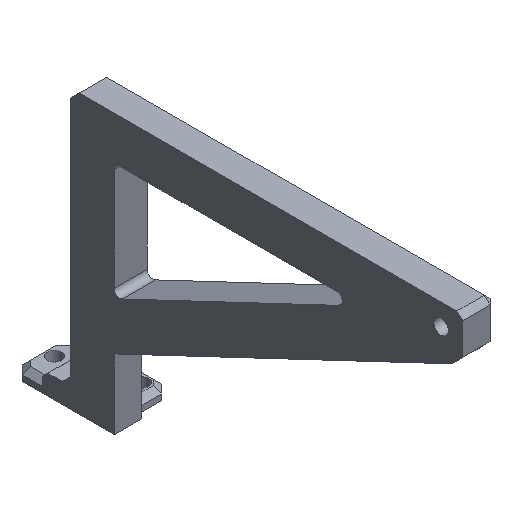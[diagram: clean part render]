
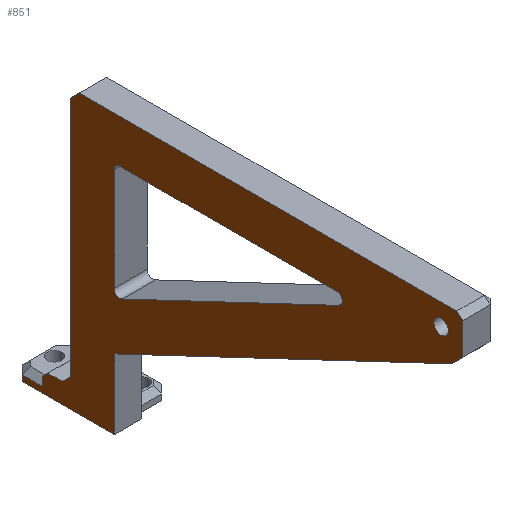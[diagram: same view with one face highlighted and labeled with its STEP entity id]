
A CAD part, isometric view. The second image highlights one B-rep face of the part: STEP entity #851.
In plain terms, the highlighted planar face has unit normal (-1, 0, 0).
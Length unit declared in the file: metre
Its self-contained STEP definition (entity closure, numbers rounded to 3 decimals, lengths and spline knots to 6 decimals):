
#22=CIRCLE('',#917,0.0025);
#24=CIRCLE('',#920,0.002);
#25=CIRCLE('',#921,0.002);
#26=CIRCLE('',#922,0.002);
#88=ORIENTED_EDGE('',*,*,#295,.F.);
#89=ORIENTED_EDGE('',*,*,#322,.T.);
#90=ORIENTED_EDGE('',*,*,#323,.T.);
#91=ORIENTED_EDGE('',*,*,#287,.F.);
#92=ORIENTED_EDGE('',*,*,#283,.F.);
#93=ORIENTED_EDGE('',*,*,#280,.T.);
#94=ORIENTED_EDGE('',*,*,#324,.T.);
#95=ORIENTED_EDGE('',*,*,#316,.F.);
#96=ORIENTED_EDGE('',*,*,#325,.T.);
#97=ORIENTED_EDGE('',*,*,#311,.F.);
#98=ORIENTED_EDGE('',*,*,#326,.T.);
#99=ORIENTED_EDGE('',*,*,#307,.F.);
#100=ORIENTED_EDGE('',*,*,#327,.T.);
#101=ORIENTED_EDGE('',*,*,#303,.F.);
#102=ORIENTED_EDGE('',*,*,#328,.T.);
#103=ORIENTED_EDGE('',*,*,#269,.F.);
#104=ORIENTED_EDGE('',*,*,#329,.T.);
#105=ORIENTED_EDGE('',*,*,#312,.F.);
#106=ORIENTED_EDGE('',*,*,#330,.T.);
#107=ORIENTED_EDGE('',*,*,#275,.F.);
#108=ORIENTED_EDGE('',*,*,#331,.T.);
#109=ORIENTED_EDGE('',*,*,#320,.T.);
#269=EDGE_CURVE('',#387,#388,#462,.T.);
#275=EDGE_CURVE('',#393,#394,#468,.T.);
#280=EDGE_CURVE('',#395,#398,#473,.T.);
#283=EDGE_CURVE('',#395,#399,#476,.T.);
#287=EDGE_CURVE('',#399,#404,#479,.T.);
#295=EDGE_CURVE('',#411,#412,#485,.T.);
#303=EDGE_CURVE('',#419,#416,#493,.T.);
#307=EDGE_CURVE('',#423,#420,#497,.T.);
#311=EDGE_CURVE('',#427,#424,#501,.T.);
#312=EDGE_CURVE('',#428,#429,#502,.T.);
#316=EDGE_CURVE('',#432,#433,#506,.T.);
#320=EDGE_CURVE('',#436,#436,#22,.T.);
#322=EDGE_CURVE('',#411,#438,#510,.T.);
#323=EDGE_CURVE('',#438,#404,#511,.T.);
#324=EDGE_CURVE('',#398,#433,#512,.T.);
#325=EDGE_CURVE('',#432,#424,#513,.F.);
#326=EDGE_CURVE('',#427,#420,#514,.F.);
#327=EDGE_CURVE('',#423,#416,#515,.F.);
#328=EDGE_CURVE('',#419,#412,#516,.F.);
#329=EDGE_CURVE('',#387,#429,#24,.T.);
#330=EDGE_CURVE('',#428,#394,#25,.T.);
#331=EDGE_CURVE('',#393,#388,#26,.T.);
#387=VERTEX_POINT('',#1203);
#388=VERTEX_POINT('',#1204);
#393=VERTEX_POINT('',#1215);
#394=VERTEX_POINT('',#1217);
#395=VERTEX_POINT('',#1221);
#398=VERTEX_POINT('',#1226);
#399=VERTEX_POINT('',#1230);
#404=VERTEX_POINT('',#1242);
#411=VERTEX_POINT('',#1258);
#412=VERTEX_POINT('',#1259);
#416=VERTEX_POINT('',#1269);
#419=VERTEX_POINT('',#1274);
#420=VERTEX_POINT('',#1278);
#423=VERTEX_POINT('',#1283);
#424=VERTEX_POINT('',#1287);
#427=VERTEX_POINT('',#1292);
#428=VERTEX_POINT('',#1296);
#429=VERTEX_POINT('',#1297);
#432=VERTEX_POINT('',#1305);
#433=VERTEX_POINT('',#1306);
#436=VERTEX_POINT('',#1314);
#438=VERTEX_POINT('',#1319);
#462=LINE('',#1202,#566);
#468=LINE('',#1216,#572);
#473=LINE('',#1227,#577);
#476=LINE('',#1233,#580);
#479=LINE('',#1241,#583);
#485=LINE('',#1257,#589);
#493=LINE('',#1275,#597);
#497=LINE('',#1284,#601);
#501=LINE('',#1293,#605);
#502=LINE('',#1295,#606);
#506=LINE('',#1304,#610);
#510=LINE('',#1318,#614);
#511=LINE('',#1320,#615);
#512=LINE('',#1321,#616);
#513=LINE('',#1322,#617);
#514=LINE('',#1323,#618);
#515=LINE('',#1324,#619);
#516=LINE('',#1325,#620);
#566=VECTOR('',#970,1.);
#572=VECTOR('',#978,1.);
#577=VECTOR('',#985,1.);
#580=VECTOR('',#990,1.);
#583=VECTOR('',#997,1.);
#589=VECTOR('',#1009,1.);
#597=VECTOR('',#1019,1.);
#601=VECTOR('',#1025,1.);
#605=VECTOR('',#1031,1.);
#606=VECTOR('',#1034,1.);
#610=VECTOR('',#1040,1.);
#614=VECTOR('',#1052,1.);
#615=VECTOR('',#1053,1.);
#616=VECTOR('',#1054,1.);
#617=VECTOR('',#1055,1.);
#618=VECTOR('',#1056,1.);
#619=VECTOR('',#1057,1.);
#620=VECTOR('',#1058,1.);
#686=EDGE_LOOP('',(#88,#89,#90,#91,#92,#93,#94,#95,#96,#97,#98,#99,#100,
#101,#102));
#687=EDGE_LOOP('',(#103,#104,#105,#106,#107,#108));
#688=EDGE_LOOP('',(#109));
#749=FACE_BOUND('',#686,.T.);
#750=FACE_BOUND('',#687,.T.);
#751=FACE_BOUND('',#688,.T.);
#807=PLANE('',#919);
#851=ADVANCED_FACE('',(#749,#750,#751),#807,.F.);
#917=AXIS2_PLACEMENT_3D('',#1313,#1046,#1047);
#919=AXIS2_PLACEMENT_3D('',#1317,#1050,#1051);
#920=AXIS2_PLACEMENT_3D('',#1326,#1059,#1060);
#921=AXIS2_PLACEMENT_3D('',#1327,#1061,#1062);
#922=AXIS2_PLACEMENT_3D('',#1328,#1063,#1064);
#970=DIRECTION('',(0.,0.,-1.));
#978=DIRECTION('',(0.,-0.903,0.429));
#985=DIRECTION('',(0.,-0.903,0.429));
#990=DIRECTION('',(0.,0.,-1.));
#997=DIRECTION('',(0.,1.,0.));
#1009=DIRECTION('',(0.,0.,1.));
#1019=DIRECTION('',(0.,-1.,0.));
#1025=DIRECTION('',(0.,0.,1.));
#1031=DIRECTION('',(0.,-1.,0.));
#1034=DIRECTION('',(0.,1.,0.));
#1040=DIRECTION('',(0.,0.,-1.));
#1046=DIRECTION('',(1.,0.,0.));
#1047=DIRECTION('',(0.,0.,-1.));
#1050=DIRECTION('',(1.,0.,0.));
#1051=DIRECTION('',(0.,1.,0.));
#1052=DIRECTION('',(0.,1.,0.));
#1053=DIRECTION('',(0.,0.,-1.));
#1054=DIRECTION('',(0.,-0.707,0.707));
#1055=DIRECTION('',(0.,-0.707,-0.707));
#1056=DIRECTION('',(0.,-0.707,0.707));
#1057=DIRECTION('',(0.,-0.707,0.707));
#1058=DIRECTION('',(0.,-0.707,0.707));
#1059=DIRECTION('',(1.,0.,0.));
#1060=DIRECTION('',(0.,0.,-1.));
#1061=DIRECTION('',(1.,0.,0.));
#1062=DIRECTION('',(0.,0.,-1.));
#1063=DIRECTION('',(1.,0.,0.));
#1064=DIRECTION('',(0.,0.,-1.));
#1202=CARTESIAN_POINT('',(0.0185,-0.085,0.066398));
#1203=CARTESIAN_POINT('',(0.0185,-0.085,0.084864));
#1204=CARTESIAN_POINT('',(0.0185,-0.085,0.049095));
#1215=CARTESIAN_POINT('',(0.0185,-0.087858,0.047288));
#1216=CARTESIAN_POINT('',(0.0185,-0.128124,0.066398));
#1217=CARTESIAN_POINT('',(0.0185,-0.163227,0.083058));
#1221=CARTESIAN_POINT('',(0.0185,-0.085,0.029329));
#1226=CARTESIAN_POINT('',(0.0185,-0.202427,0.085058));
#1227=CARTESIAN_POINT('',(0.0185,-0.145617,0.058097));
#1230=CARTESIAN_POINT('',(0.0185,-0.085,0.005));
#1233=CARTESIAN_POINT('',(0.0185,-0.085,0.017164));
#1241=CARTESIAN_POINT('',(0.0185,-0.0725,0.005));
#1242=CARTESIAN_POINT('',(0.0185,-0.053,0.005));
#1257=CARTESIAN_POINT('',(0.0185,-0.06,0.0085));
#1258=CARTESIAN_POINT('',(0.0185,-0.06,0.007));
#1259=CARTESIAN_POINT('',(0.0185,-0.06,0.01));
#1269=CARTESIAN_POINT('',(0.0185,-0.067,0.012));
#1274=CARTESIAN_POINT('',(0.0185,-0.062,0.012));
#1275=CARTESIAN_POINT('',(0.0185,-0.065,0.012));
#1278=CARTESIAN_POINT('',(0.0185,-0.07,0.098864));
#1283=CARTESIAN_POINT('',(0.0185,-0.07,0.015));
#1284=CARTESIAN_POINT('',(0.0185,-0.07,0.056932));
#1287=CARTESIAN_POINT('',(0.0185,-0.204234,0.101864));
#1292=CARTESIAN_POINT('',(0.0185,-0.073,0.101864));
#1293=CARTESIAN_POINT('',(0.0185,-0.138117,0.101864));
#1295=CARTESIAN_POINT('',(0.0185,-0.128124,0.086864));
#1296=CARTESIAN_POINT('',(0.0185,-0.16237,0.086864));
#1297=CARTESIAN_POINT('',(0.0185,-0.087,0.086864));
#1304=CARTESIAN_POINT('',(0.0185,-0.206234,0.094364));
#1305=CARTESIAN_POINT('',(0.0185,-0.206234,0.099864));
#1306=CARTESIAN_POINT('',(0.0185,-0.206234,0.088864));
#1313=CARTESIAN_POINT('',(0.0185,-0.198734,0.094364));
#1314=CARTESIAN_POINT('',(0.0185,-0.198734,0.091864));
#1317=CARTESIAN_POINT('',(0.0185,-0.133117,0.053432));
#1318=CARTESIAN_POINT('',(0.0185,-0.053,0.007));
#1319=CARTESIAN_POINT('',(0.0185,-0.053,0.007));
#1320=CARTESIAN_POINT('',(0.0185,-0.053,0.009));
#1321=CARTESIAN_POINT('',(0.0185,-0.206234,0.088864));
#1322=CARTESIAN_POINT('',(0.0185,-0.204234,0.101864));
#1323=CARTESIAN_POINT('',(0.0185,-0.07,0.098864));
#1324=CARTESIAN_POINT('',(0.0185,-0.120775,0.065775));
#1325=CARTESIAN_POINT('',(0.0185,-0.06,0.01));
#1326=CARTESIAN_POINT('',(0.0185,-0.087,0.084864));
#1327=CARTESIAN_POINT('',(0.0185,-0.16237,0.084864));
#1328=CARTESIAN_POINT('',(0.0185,-0.087,0.049095));
